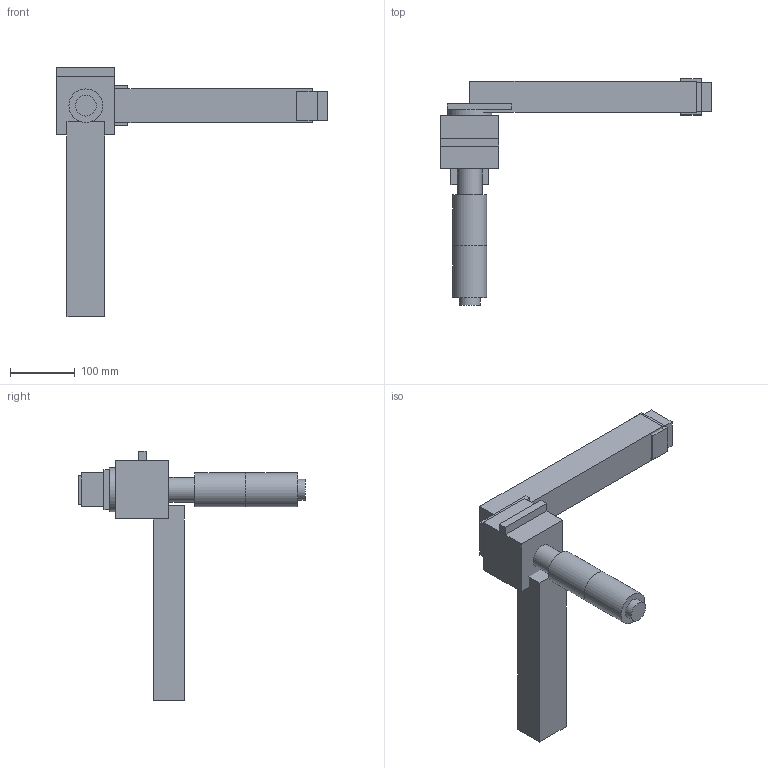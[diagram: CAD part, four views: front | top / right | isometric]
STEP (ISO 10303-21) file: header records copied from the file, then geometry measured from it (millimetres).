
FILE_DESCRIPTION(('Open CASCADE Model'),'2;1');
FILE_NAME('Open CASCADE Shape Model','2026-10-25T05:14:08',('Author'),( 'Open CASCADE'),'Open CASCADE STEP processor 7.9','Open CASCADE 7.9' ,'Unknown');
FILE_SCHEMA(('AUTOMOTIVE_DESIGN { 1 0 10303 214 1 1 1 1 }'));
Length unit declared in the file: millimetre
Products named in the file (22): K_EL01_Split_Yoke_ECi52_GP52C_Concept; UpperArmLink_300mm_Illustrative; SplitYoke_BearingCarrier_Envelope; Removable_BearingCarrier_Cap; ECi52_579165_Motor_Envelope_D52x80; ENX16EASY06_512CPT_Configurable_Encoder_Envelope_D32x12; GP52C_223094_91to1_Gearhead_Envelope_D52x78p5; KTR_ROTEX_GS_Size19_98ShA_Coupling_Envelope; Independent_Output_Spindle_12mm_Assumed; SKF_6201_2RSH_Bearing_A_12x32x10; SKF_6201_2RSH_Bearing_B_12x32x10; Optional_Output_Encoder_Target_Ring_Not_Selected; Optional_Output_Encoder_Sensor_PCB_Envelope_Not_Selected; Spindle_Retainer_A_Envelope_Detail_TBD; Spindle_Retainer_B_Envelope_Detail_TBD; Forearm_Output_Flange_Envelope; Forearm_Root_Mount_Plate_Concept; Forearm_Link_350mm_Illustrative; Wrist_Payload_Interface_Illustrative; Payload_1kg_Envelope_CenterAt350mm; Payload_COM_Marker_350mm; ForearmHand_COM_Marker_180mm
Assembly tree (21 placements, depth 2):
  K_EL01_Split_Yoke_ECi52_GP52C_Concept
    UpperArmLink_300mm_Illustrative
    SplitYoke_BearingCarrier_Envelope
    Removable_BearingCarrier_Cap
    ECi52_579165_Motor_Envelope_D52x80
    ENX16EASY06_512CPT_Configurable_Encoder_Envelope_D32x12
    GP52C_223094_91to1_Gearhead_Envelope_D52x78p5
    KTR_ROTEX_GS_Size19_98ShA_Coupling_Envelope
    Independent_Output_Spindle_12mm_Assumed
    SKF_6201_2RSH_Bearing_A_12x32x10
    SKF_6201_2RSH_Bearing_B_12x32x10
    Optional_Output_Encoder_Target_Ring_Not_Selected
    Optional_Output_Encoder_Sensor_PCB_Envelope_Not_Selected
    Spindle_Retainer_A_Envelope_Detail_TBD
    Spindle_Retainer_B_Envelope_Detail_TBD
    Forearm_Output_Flange_Envelope
    Forearm_Root_Mount_Plate_Concept
    Forearm_Link_350mm_Illustrative
    Wrist_Payload_Interface_Illustrative
    Payload_1kg_Envelope_CenterAt350mm
    Payload_COM_Marker_350mm
    ForearmHand_COM_Marker_180mm
Bounding box: 417.5 x 349.5 x 384 mm (x, y, z)
Volume: 3003978.3 mm3; surface area: 310740.9 mm2
Topology: 21 solids, 21 shells, 94 faces, 156 edges, 104 vertices
Faces by surface type: plane 74, cylinder 20
Full cylindrical faces by diameter (mm): 7 x2, 12 x3, 12.1 x2, 12.4 x1, 12.5 x1, 16 x2, 27 x1, 32 x4, 38 x1, 52 x2, 68 x1
Entity records: 4759 total; most frequent: DIRECTION 740, CARTESIAN_POINT 688, LINE 388, VECTOR 388, ORIENTED_EDGE 312, PCURVE 312, DEFINITIONAL_REPRESENTATION 312, AXIS2_PLACEMENT_3D 156
